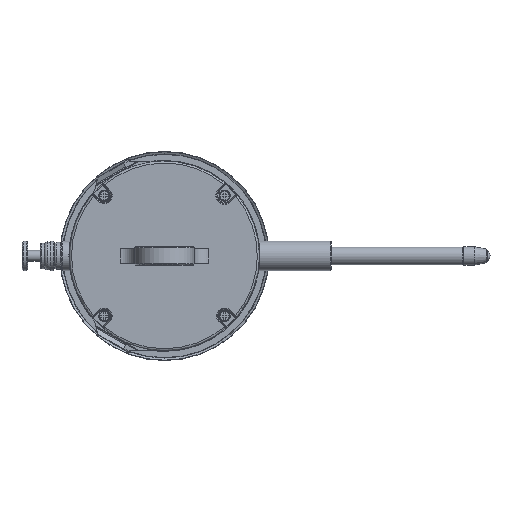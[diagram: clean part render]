
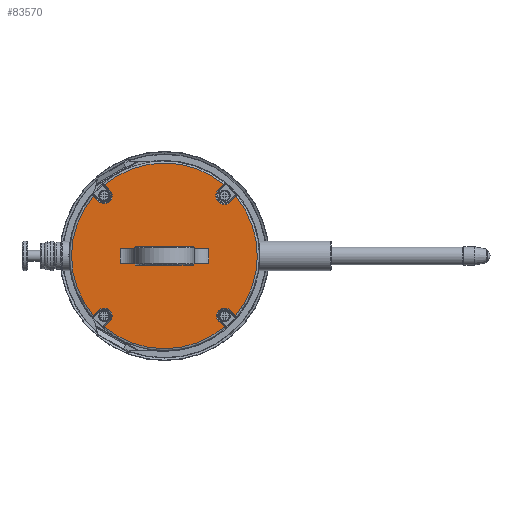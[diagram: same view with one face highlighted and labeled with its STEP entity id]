
A CAD part, top view. The second image highlights one B-rep face of the part: STEP entity #83570.
In plain terms, the highlighted planar face has unit normal (0, 0, 1).
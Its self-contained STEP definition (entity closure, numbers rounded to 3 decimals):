
#42230=CARTESIAN_POINT('',(-2.5,0.,2.1));
#42240=DIRECTION('',(0.,1.,0.));
#42250=VECTOR('',#42240,1.);
#42260=LINE('',#42230,#42250);
#42270=CARTESIAN_POINT('',(-2.5,-7.8,2.1));
#42280=VERTEX_POINT('',#42270);
#42290=CARTESIAN_POINT('',(-2.5,7.8,2.1));
#42300=VERTEX_POINT('',#42290);
#42310=EDGE_CURVE('',#42280,#42300,#42260,.T.);
#44890=CARTESIAN_POINT('',(-2.,-12.1,2.1));
#44900=VERTEX_POINT('',#44890);
#44950=CARTESIAN_POINT('',(-2.,0.,2.1));
#44960=DIRECTION('',(0.,1.,0.));
#44970=VECTOR('',#44960,1.);
#44980=LINE('',#44950,#44970);
#44990=CARTESIAN_POINT('',(-2.,-8.1,2.1));
#45000=VERTEX_POINT('',#44990);
#45010=EDGE_CURVE('',#44900,#45000,#44980,.T.);
#54070=CARTESIAN_POINT('',(-19.359,16.288,2.1));
#54080=VERTEX_POINT('',#54070);
#55130=CARTESIAN_POINT('',(2.5,7.8,2.1));
#55140=VERTEX_POINT('',#55130);
#55170=CARTESIAN_POINT('',(2.5,0.,2.1));
#55180=DIRECTION('',(0.,-1.,0.));
#55190=VECTOR('',#55180,1.);
#55200=LINE('',#55170,#55190);
#55210=CARTESIAN_POINT('',(2.5,-7.8,2.1));
#55220=VERTEX_POINT('',#55210);
#55230=EDGE_CURVE('',#55140,#55220,#55200,.T.);
#56200=CARTESIAN_POINT('',(14.728,-18.082,2.1));
#56210=VERTEX_POINT('',#56200);
#56400=CARTESIAN_POINT('',(16.134,-19.488,2.1));
#56410=VERTEX_POINT('',#56400);
#56440=CARTESIAN_POINT('',(0.,-3.354,2.1));
#56450=DIRECTION('',(-0.707,0.707,0.));
#56460=VECTOR('',#56450,1.);
#56470=LINE('',#56440,#56460);
#56480=EDGE_CURVE('',#56410,#56210,#56470,.T.);
#57690=CARTESIAN_POINT('',(-16.288,19.359,2.1));
#57700=VERTEX_POINT('',#57690);
#65750=CARTESIAN_POINT('',(14.869,17.94,2.1));
#65760=VERTEX_POINT('',#65750);
#65850=CARTESIAN_POINT('',(17.94,14.869,2.1));
#65860=VERTEX_POINT('',#65850);
#65890=CARTESIAN_POINT('',(16.405,16.405,2.1));
#65900=DIRECTION('',(0.,0.,1.));
#65910=DIRECTION('',(-1.,0.,0.));
#65920=AXIS2_PLACEMENT_3D('',#65890,#65900,#65910);
#65930=CIRCLE('',#65920,2.172);
#65940=EDGE_CURVE('',#65760,#65860,#65930,.T.);
#76480=CARTESIAN_POINT('',(-19.359,-16.288,2.1));
#76490=VERTEX_POINT('',#76480);
#76830=CARTESIAN_POINT('',(0.,3.071,2.1));
#76840=DIRECTION('',(0.707,0.707,0.));
#76850=VECTOR('',#76840,1.);
#76860=LINE('',#76830,#76850);
#76870=CARTESIAN_POINT('',(-17.94,-14.869,2.1));
#76880=VERTEX_POINT('',#76870);
#76890=EDGE_CURVE('',#76490,#76880,#76860,.T.);
#78070=CARTESIAN_POINT('',(19.359,16.288,2.1));
#78080=VERTEX_POINT('',#78070);
#78550=CARTESIAN_POINT('',(0.,3.071,2.1));
#78560=DIRECTION('',(0.707,0.707,0.));
#78570=VECTOR('',#78560,1.);
#78580=LINE('',#78550,#78570);
#78590=CARTESIAN_POINT('',(16.288,19.359,2.1));
#78600=VERTEX_POINT('',#78590);
#78610=EDGE_CURVE('',#65760,#78600,#78580,.T.);
#78900=CARTESIAN_POINT('',(-16.288,-19.359,2.1));
#78910=VERTEX_POINT('',#78900);
#78940=CARTESIAN_POINT('',(0.,0.,2.1));
#78950=DIRECTION('',(0.,0.,-1.));
#78960=DIRECTION('',(-1.,0.,0.));
#78970=AXIS2_PLACEMENT_3D('',#78940,#78950,#78960);
#78980=CIRCLE('',#78970,25.3);
#78990=EDGE_CURVE('',#56410,#78910,#78980,.T.);
#81680=CARTESIAN_POINT('',(0.,0.,2.1));
#81690=DIRECTION('',(0.,0.,-1.));
#81700=DIRECTION('',(1.,0.,0.));
#81710=AXIS2_PLACEMENT_3D('',#81680,#81690,#81700);
#81720=PLANE('',#81710);
#81730=CARTESIAN_POINT('',(0.,-10.3,2.1));
#81740=DIRECTION('',(-0.707,0.707,0.));
#81750=VECTOR('',#81740,1.);
#81760=LINE('',#81730,#81750);
#81770=CARTESIAN_POINT('',(-2.2,-8.1,2.1));
#81780=VERTEX_POINT('',#81770);
#81790=EDGE_CURVE('',#81780,#42280,#81760,.T.);
#81800=ORIENTED_EDGE('',*,*,#81790,.T.);
#81810=CARTESIAN_POINT('',(0.,-8.1,2.1));
#81820=DIRECTION('',(1.,0.,0.));
#81830=VECTOR('',#81820,1.);
#81840=LINE('',#81810,#81830);
#81850=EDGE_CURVE('',#81780,#45000,#81840,.T.);
#81860=ORIENTED_EDGE('',*,*,#81850,.F.);
#81870=ORIENTED_EDGE('',*,*,#45010,.T.);
#81880=CARTESIAN_POINT('',(-2.,-12.1,2.1));
#81890=DIRECTION('',(1.,0.,0.));
#81900=VECTOR('',#81890,1.);
#81910=LINE('',#81880,#81900);
#81920=CARTESIAN_POINT('',(2.,-12.1,2.1));
#81930=VERTEX_POINT('',#81920);
#81940=EDGE_CURVE('',#44900,#81930,#81910,.T.);
#81950=ORIENTED_EDGE('',*,*,#81940,.F.);
#81960=CARTESIAN_POINT('',(2.,0.,2.1));
#81970=DIRECTION('',(0.,-1.,0.));
#81980=VECTOR('',#81970,1.);
#81990=LINE('',#81960,#81980);
#82000=CARTESIAN_POINT('',(2.,-8.1,2.1));
#82010=VERTEX_POINT('',#82000);
#82020=EDGE_CURVE('',#82010,#81930,#81990,.T.);
#82030=ORIENTED_EDGE('',*,*,#82020,.T.);
#82040=CARTESIAN_POINT('',(2.2,-8.1,2.1));
#82050=VERTEX_POINT('',#82040);
#82060=EDGE_CURVE('',#82010,#82050,#81840,.T.);
#82070=ORIENTED_EDGE('',*,*,#82060,.F.);
#82080=CARTESIAN_POINT('',(10.3,0.,2.1));
#82090=DIRECTION('',(0.707,0.707,0.));
#82100=VECTOR('',#82090,1.);
#82110=LINE('',#82080,#82100);
#82120=EDGE_CURVE('',#82050,#55220,#82110,.T.);
#82130=ORIENTED_EDGE('',*,*,#82120,.F.);
#82140=ORIENTED_EDGE('',*,*,#55230,.T.);
#82150=CARTESIAN_POINT('',(10.3,0.,2.1));
#82160=DIRECTION('',(-0.707,0.707,0.));
#82170=VECTOR('',#82160,1.);
#82180=LINE('',#82150,#82170);
#82190=CARTESIAN_POINT('',(2.2,8.1,2.1));
#82200=VERTEX_POINT('',#82190);
#82210=EDGE_CURVE('',#55140,#82200,#82180,.T.);
#82220=ORIENTED_EDGE('',*,*,#82210,.F.);
#82230=CARTESIAN_POINT('',(0.,8.1,2.1));
#82240=DIRECTION('',(-1.,0.,0.));
#82250=VECTOR('',#82240,1.);
#82260=LINE('',#82230,#82250);
#82270=CARTESIAN_POINT('',(2.,8.1,2.1));
#82280=VERTEX_POINT('',#82270);
#82290=EDGE_CURVE('',#82200,#82280,#82260,.T.);
#82300=ORIENTED_EDGE('',*,*,#82290,.F.);
#82310=CARTESIAN_POINT('',(2.,0.,2.1));
#82320=DIRECTION('',(0.,-1.,0.));
#82330=VECTOR('',#82320,1.);
#82340=LINE('',#82310,#82330);
#82350=CARTESIAN_POINT('',(2.,12.1,2.1));
#82360=VERTEX_POINT('',#82350);
#82370=EDGE_CURVE('',#82360,#82280,#82340,.T.);
#82380=ORIENTED_EDGE('',*,*,#82370,.T.);
#82390=CARTESIAN_POINT('',(-2.,12.1,2.1));
#82400=DIRECTION('',(1.,0.,0.));
#82410=VECTOR('',#82400,1.);
#82420=LINE('',#82390,#82410);
#82430=CARTESIAN_POINT('',(-2.,12.1,2.1));
#82440=VERTEX_POINT('',#82430);
#82450=EDGE_CURVE('',#82440,#82360,#82420,.T.);
#82460=ORIENTED_EDGE('',*,*,#82450,.T.);
#82470=CARTESIAN_POINT('',(-2.,0.,2.1));
#82480=DIRECTION('',(0.,1.,0.));
#82490=VECTOR('',#82480,1.);
#82500=LINE('',#82470,#82490);
#82510=CARTESIAN_POINT('',(-2.,8.1,2.1));
#82520=VERTEX_POINT('',#82510);
#82530=EDGE_CURVE('',#82520,#82440,#82500,.T.);
#82540=ORIENTED_EDGE('',*,*,#82530,.T.);
#82550=CARTESIAN_POINT('',(-2.2,8.1,2.1));
#82560=VERTEX_POINT('',#82550);
#82570=EDGE_CURVE('',#82520,#82560,#82260,.T.);
#82580=ORIENTED_EDGE('',*,*,#82570,.F.);
#82590=CARTESIAN_POINT('',(-10.3,0.,2.1));
#82600=DIRECTION('',(0.707,0.707,0.));
#82610=VECTOR('',#82600,1.);
#82620=LINE('',#82590,#82610);
#82630=EDGE_CURVE('',#42300,#82560,#82620,.T.);
#82640=ORIENTED_EDGE('',*,*,#82630,.T.);
#82650=ORIENTED_EDGE('',*,*,#42310,.T.);
#82660=EDGE_LOOP('',(#82650,#82640,#82580,#82540,#82460,#82380,#82300,
#82220,#82140,#82130,#82070,#82030,#81950,#81870,#81860,#81800));
#82670=FACE_BOUND('',#82660,.T.);
#82680=ORIENTED_EDGE('',*,*,#78990,.F.);
#82690=CARTESIAN_POINT('',(0.,-3.071,2.1));
#82700=DIRECTION('',(-0.707,-0.707,0.));
#82710=VECTOR('',#82700,1.);
#82720=LINE('',#82690,#82710);
#82730=CARTESIAN_POINT('',(-14.869,-17.94,2.1));
#82740=VERTEX_POINT('',#82730);
#82750=EDGE_CURVE('',#82740,#78910,#82720,.T.);
#82760=ORIENTED_EDGE('',*,*,#82750,.T.);
#82770=CARTESIAN_POINT('',(-16.405,-16.405,2.1));
#82780=DIRECTION('',(0.,0.,1.));
#82790=DIRECTION('',(-1.,0.,0.));
#82800=AXIS2_PLACEMENT_3D('',#82770,#82780,#82790);
#82810=CIRCLE('',#82800,2.172);
#82820=EDGE_CURVE('',#82740,#76880,#82810,.T.);
#82830=ORIENTED_EDGE('',*,*,#82820,.F.);
#82840=ORIENTED_EDGE('',*,*,#76890,.T.);
#82850=CARTESIAN_POINT('',(0.,0.,2.1));
#82860=DIRECTION('',(0.,0.,-1.));
#82870=DIRECTION('',(-1.,0.,0.));
#82880=AXIS2_PLACEMENT_3D('',#82850,#82860,#82870);
#82890=CIRCLE('',#82880,25.3);
#82900=EDGE_CURVE('',#76490,#54080,#82890,.T.);
#82910=ORIENTED_EDGE('',*,*,#82900,.F.);
#82920=CARTESIAN_POINT('',(0.,-3.071,2.1));
#82930=DIRECTION('',(-0.707,0.707,0.));
#82940=VECTOR('',#82930,1.);
#82950=LINE('',#82920,#82940);
#82960=CARTESIAN_POINT('',(-17.94,14.869,2.1));
#82970=VERTEX_POINT('',#82960);
#82980=EDGE_CURVE('',#82970,#54080,#82950,.T.);
#82990=ORIENTED_EDGE('',*,*,#82980,.T.);
#83000=CARTESIAN_POINT('',(-16.405,16.405,2.1));
#83010=DIRECTION('',(0.,0.,1.));
#83020=DIRECTION('',(-1.,0.,0.));
#83030=AXIS2_PLACEMENT_3D('',#83000,#83010,#83020);
#83040=CIRCLE('',#83030,2.172);
#83050=CARTESIAN_POINT('',(-14.869,17.94,2.1));
#83060=VERTEX_POINT('',#83050);
#83070=EDGE_CURVE('',#82970,#83060,#83040,.T.);
#83080=ORIENTED_EDGE('',*,*,#83070,.F.);
#83090=CARTESIAN_POINT('',(0.,3.071,2.1));
#83100=DIRECTION('',(0.707,-0.707,0.));
#83110=VECTOR('',#83100,1.);
#83120=LINE('',#83090,#83110);
#83130=EDGE_CURVE('',#57700,#83060,#83120,.T.);
#83140=ORIENTED_EDGE('',*,*,#83130,.T.);
#83150=CARTESIAN_POINT('',(0.,0.,2.1));
#83160=DIRECTION('',(0.,0.,-1.));
#83170=DIRECTION('',(-1.,0.,0.));
#83180=AXIS2_PLACEMENT_3D('',#83150,#83160,#83170);
#83190=CIRCLE('',#83180,25.3);
#83200=EDGE_CURVE('',#57700,#78600,#83190,.T.);
#83210=ORIENTED_EDGE('',*,*,#83200,.F.);
#83220=ORIENTED_EDGE('',*,*,#78610,.T.);
#83230=ORIENTED_EDGE('',*,*,#65940,.F.);
#83240=CARTESIAN_POINT('',(0.,-3.071,2.1));
#83250=DIRECTION('',(-0.707,-0.707,0.));
#83260=VECTOR('',#83250,1.);
#83270=LINE('',#83240,#83260);
#83280=EDGE_CURVE('',#78080,#65860,#83270,.T.);
#83290=ORIENTED_EDGE('',*,*,#83280,.T.);
#83300=CARTESIAN_POINT('',(0.,0.,2.1));
#83310=DIRECTION('',(0.,0.,-1.));
#83320=DIRECTION('',(-1.,0.,0.));
#83330=AXIS2_PLACEMENT_3D('',#83300,#83310,#83320);
#83340=CIRCLE('',#83330,25.3);
#83350=CARTESIAN_POINT('',(19.488,-16.134,2.1));
#83360=VERTEX_POINT('',#83350);
#83370=EDGE_CURVE('',#78080,#83360,#83340,.T.);
#83380=ORIENTED_EDGE('',*,*,#83370,.F.);
#83390=CARTESIAN_POINT('',(0.,3.354,2.1));
#83400=DIRECTION('',(0.707,-0.707,0.));
#83410=VECTOR('',#83400,1.);
#83420=LINE('',#83390,#83410);
#83430=CARTESIAN_POINT('',(18.082,-14.728,2.1));
#83440=VERTEX_POINT('',#83430);
#83450=EDGE_CURVE('',#83440,#83360,#83420,.T.);
#83460=ORIENTED_EDGE('',*,*,#83450,.T.);
#83470=CARTESIAN_POINT('',(16.405,-16.405,2.1));
#83480=DIRECTION('',(0.,0.,1.));
#83490=DIRECTION('',(-1.,0.,0.));
#83500=AXIS2_PLACEMENT_3D('',#83470,#83480,#83490);
#83510=CIRCLE('',#83500,2.372);
#83520=EDGE_CURVE('',#83440,#56210,#83510,.T.);
#83530=ORIENTED_EDGE('',*,*,#83520,.F.);
#83540=ORIENTED_EDGE('',*,*,#56480,.T.);
#83550=EDGE_LOOP('',(#83540,#83530,#83460,#83380,#83290,#83230,#83220,
#83210,#83140,#83080,#82990,#82910,#82840,#82830,#82760,#82680));
#83560=FACE_OUTER_BOUND('',#83550,.T.);
#83570=ADVANCED_FACE('',(#82670,#83560),#81720,.F.);
